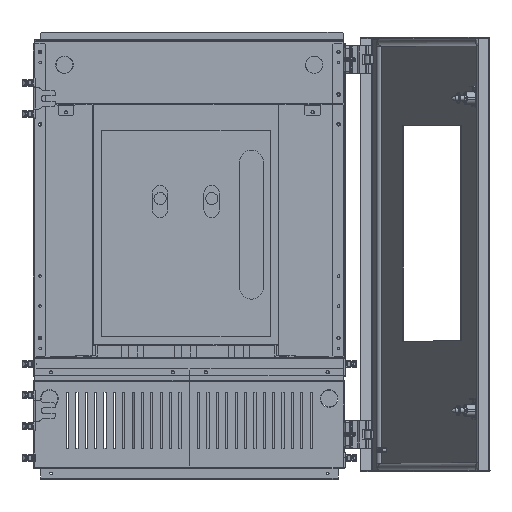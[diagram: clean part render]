
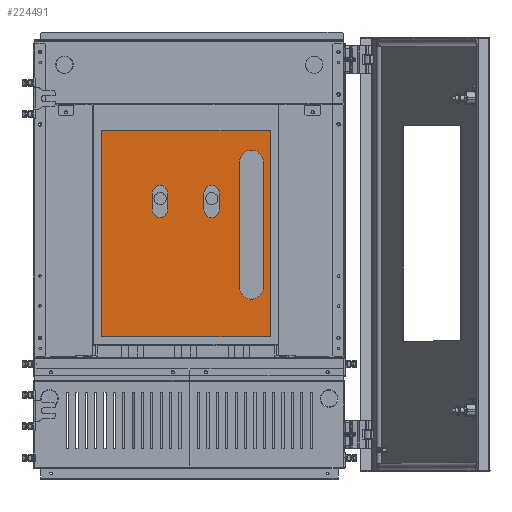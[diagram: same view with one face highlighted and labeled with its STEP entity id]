
A CAD part, top view. The second image highlights one B-rep face of the part: STEP entity #224491.
In plain terms, the highlighted planar face has unit normal (0, 0, 1).
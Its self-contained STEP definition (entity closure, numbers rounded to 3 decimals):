
#223521=CARTESIAN_POINT(' ',(41.334,50.593,295.8));
#223526=DIRECTION(' ',(0.,0.,1.));
#223531=DIRECTION(' ',(1.,0.,0.));
#223536=AXIS2_PLACEMENT_3D(' ',#223521,#223526,#223531);
#223541=CIRCLE('',#223536,12.356);
#223546=CARTESIAN_POINT(' ',(53.69,50.593,295.8));
#223547=VERTEX_POINT(' ',#223546);
#223551=CARTESIAN_POINT(' ',(28.977,50.593,295.8));
#223552=VERTEX_POINT(' ',#223551);
#223556=EDGE_CURVE(' ',#223547,#223552,#223541,.T.);
#223671=CARTESIAN_POINT(' ',(28.977,50.593,295.8));
#223676=DIRECTION(' ',(0.,-1.,0.));
#223681=VECTOR(' ',#223676,1.);
#223686=LINE('',#223671,#223681);
#223691=CARTESIAN_POINT(' ',(28.977,23.674,295.8));
#223692=VERTEX_POINT(' ',#223691);
#223696=EDGE_CURVE(' ',#223552,#223692,#223686,.T.);
#223786=CARTESIAN_POINT(' ',(41.334,23.674,295.8));
#223791=DIRECTION(' ',(0.,-0.,1.));
#223796=DIRECTION(' ',(-1.,0.,0.));
#223801=AXIS2_PLACEMENT_3D(' ',#223786,#223791,#223796);
#223806=CIRCLE('',#223801,12.356);
#223811=CARTESIAN_POINT(' ',(53.69,23.674,295.8));
#223812=VERTEX_POINT(' ',#223811);
#223816=EDGE_CURVE(' ',#223692,#223812,#223806,.T.);
#223906=CARTESIAN_POINT(' ',(53.69,23.674,295.8));
#223911=DIRECTION(' ',(0.,1.,0.));
#223916=VECTOR(' ',#223911,1.);
#223921=LINE('',#223906,#223916);
#223926=EDGE_CURVE(' ',#223812,#223547,#223921,.T.);
#223966=DIRECTION(' ',(-0.,0.,1.));
#223971=CARTESIAN_POINT(' ',(-135.,-179.2,295.8));
#223976=DIRECTION(' ',(1.,0.,0.));
#223981=AXIS2_PLACEMENT_3D(' ',#223971,#223966,#223976);
#223986=PLANE('NONE',#223981);
#223991=CARTESIAN_POINT(' ',(-135.,150.8,295.8));
#223996=DIRECTION(' ',(0.,-1.,0.));
#224001=VECTOR(' ',#223996,1.);
#224006=LINE('',#223991,#224001);
#224011=CARTESIAN_POINT(' ',(-135.,150.8,295.8));
#224012=VERTEX_POINT(' ',#224011);
#224016=CARTESIAN_POINT(' ',(-135.,-179.2,295.8));
#224017=VERTEX_POINT(' ',#224016);
#224021=EDGE_CURVE(' ',#224012,#224017,#224006,.T.);
#224026=ORIENTED_EDGE(' ',*,*,#224021,.T.);
#224031=CARTESIAN_POINT(' ',(-135.,-179.2,295.8));
#224036=DIRECTION(' ',(1.,0.,0.));
#224041=VECTOR(' ',#224036,1.);
#224046=LINE('',#224031,#224041);
#224051=CARTESIAN_POINT(' ',(135.,-179.2,295.8));
#224052=VERTEX_POINT(' ',#224051);
#224056=EDGE_CURVE(' ',#224017,#224052,#224046,.T.);
#224061=ORIENTED_EDGE(' ',*,*,#224056,.T.);
#224066=CARTESIAN_POINT(' ',(135.,-179.2,295.8));
#224071=DIRECTION(' ',(0.,1.,0.));
#224076=VECTOR(' ',#224071,1.);
#224081=LINE('',#224066,#224076);
#224086=CARTESIAN_POINT(' ',(135.,150.8,295.8));
#224087=VERTEX_POINT(' ',#224086);
#224091=EDGE_CURVE(' ',#224052,#224087,#224081,.T.);
#224096=ORIENTED_EDGE(' ',*,*,#224091,.T.);
#224101=CARTESIAN_POINT(' ',(135.,150.8,295.8));
#224106=DIRECTION(' ',(-1.,0.,0.));
#224111=VECTOR(' ',#224106,1.);
#224116=LINE('',#224101,#224111);
#224121=EDGE_CURVE(' ',#224087,#224012,#224116,.T.);
#224126=ORIENTED_EDGE(' ',*,*,#224121,.T.);
#224131=EDGE_LOOP(' ',(#224026,#224061,#224096,#224126));
#224136=FACE_OUTER_BOUND(' ',#224131,.T.);
#224141=CARTESIAN_POINT(' ',(104.972,-100.338,295.8));
#224146=DIRECTION(' ',(0.,-0.,1.));
#224151=DIRECTION(' ',(-1.,0.,0.));
#224156=AXIS2_PLACEMENT_3D(' ',#224141,#224146,#224151);
#224161=CIRCLE('',#224156,18.845);
#224166=CARTESIAN_POINT(' ',(86.127,-100.338,295.8));
#224167=VERTEX_POINT(' ',#224166);
#224171=CARTESIAN_POINT(' ',(123.818,-100.338,295.8));
#224172=VERTEX_POINT(' ',#224171);
#224176=EDGE_CURVE(' ',#224167,#224172,#224161,.T.);
#224181=ORIENTED_EDGE(' ',*,*,#224176,.F.);
#224186=CARTESIAN_POINT(' ',(86.127,100.338,295.8));
#224191=DIRECTION(' ',(0.,-1.,0.));
#224196=VECTOR(' ',#224191,1.);
#224201=LINE('',#224186,#224196);
#224206=CARTESIAN_POINT(' ',(86.127,100.338,295.8));
#224207=VERTEX_POINT(' ',#224206);
#224211=EDGE_CURVE(' ',#224207,#224167,#224201,.T.);
#224216=ORIENTED_EDGE(' ',*,*,#224211,.F.);
#224221=CARTESIAN_POINT(' ',(104.972,100.338,295.8));
#224226=DIRECTION(' ',(0.,0.,1.));
#224231=DIRECTION(' ',(1.,0.,0.));
#224236=AXIS2_PLACEMENT_3D(' ',#224221,#224226,#224231);
#224241=CIRCLE('',#224236,18.845);
#224246=CARTESIAN_POINT(' ',(123.818,100.338,295.8));
#224247=VERTEX_POINT(' ',#224246);
#224251=EDGE_CURVE(' ',#224247,#224207,#224241,.T.);
#224256=ORIENTED_EDGE(' ',*,*,#224251,.F.);
#224261=CARTESIAN_POINT(' ',(123.818,-100.338,295.8));
#224266=DIRECTION(' ',(0.,1.,0.));
#224271=VECTOR(' ',#224266,1.);
#224276=LINE('',#224261,#224271);
#224281=EDGE_CURVE(' ',#224172,#224247,#224276,.T.);
#224286=ORIENTED_EDGE(' ',*,*,#224281,.F.);
#224291=EDGE_LOOP(' ',(#224181,#224216,#224256,#224286));
#224296=FACE_BOUND(' ',#224291,.T.);
#224301=ORIENTED_EDGE(' ',*,*,#223556,.F.);
#224306=ORIENTED_EDGE(' ',*,*,#223926,.F.);
#224311=ORIENTED_EDGE(' ',*,*,#223816,.F.);
#224316=ORIENTED_EDGE(' ',*,*,#223696,.F.);
#224321=EDGE_LOOP(' ',(#224301,#224306,#224311,#224316));
#224326=FACE_BOUND(' ',#224321,.T.);
#224331=CARTESIAN_POINT(' ',(-41.334,50.593,295.8));
#224336=DIRECTION(' ',(0.,0.,1.));
#224341=DIRECTION(' ',(1.,0.,0.));
#224346=AXIS2_PLACEMENT_3D(' ',#224331,#224336,#224341);
#224351=CIRCLE('',#224346,12.356);
#224356=CARTESIAN_POINT(' ',(-28.977,50.593,295.8));
#224357=VERTEX_POINT(' ',#224356);
#224361=CARTESIAN_POINT(' ',(-53.69,50.593,295.8));
#224362=VERTEX_POINT(' ',#224361);
#224366=EDGE_CURVE(' ',#224357,#224362,#224351,.T.);
#224371=ORIENTED_EDGE(' ',*,*,#224366,.F.);
#224376=CARTESIAN_POINT(' ',(-28.977,23.674,295.8));
#224381=DIRECTION(' ',(0.,1.,0.));
#224386=VECTOR(' ',#224381,1.);
#224391=LINE('',#224376,#224386);
#224396=CARTESIAN_POINT(' ',(-28.977,23.674,295.8));
#224397=VERTEX_POINT(' ',#224396);
#224401=EDGE_CURVE(' ',#224397,#224357,#224391,.T.);
#224406=ORIENTED_EDGE(' ',*,*,#224401,.F.);
#224411=CARTESIAN_POINT(' ',(-41.334,23.674,295.8));
#224416=DIRECTION(' ',(0.,-0.,1.));
#224421=DIRECTION(' ',(-1.,0.,0.));
#224426=AXIS2_PLACEMENT_3D(' ',#224411,#224416,#224421);
#224431=CIRCLE('',#224426,12.356);
#224436=CARTESIAN_POINT(' ',(-53.69,23.674,295.8));
#224437=VERTEX_POINT(' ',#224436);
#224441=EDGE_CURVE(' ',#224437,#224397,#224431,.T.);
#224446=ORIENTED_EDGE(' ',*,*,#224441,.F.);
#224451=CARTESIAN_POINT(' ',(-53.69,50.593,295.8));
#224456=DIRECTION(' ',(0.,-1.,0.));
#224461=VECTOR(' ',#224456,1.);
#224466=LINE('',#224451,#224461);
#224471=EDGE_CURVE(' ',#224362,#224437,#224466,.T.);
#224476=ORIENTED_EDGE(' ',*,*,#224471,.F.);
#224481=EDGE_LOOP(' ',(#224371,#224406,#224446,#224476));
#224486=FACE_BOUND(' ',#224481,.T.);
#224491=ADVANCED_FACE('NONE',(#224136,#224296,#224326,#224486),#223986,.T.);
